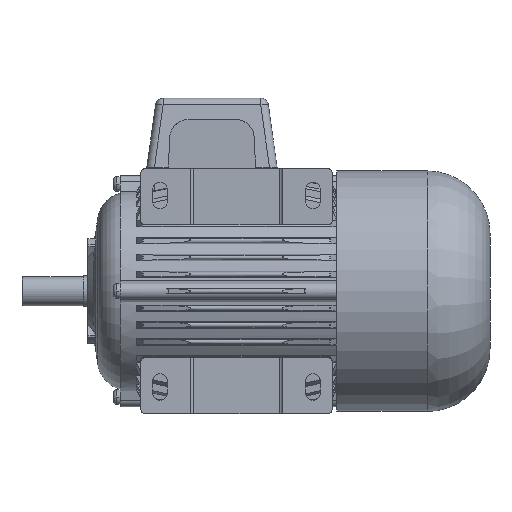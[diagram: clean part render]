
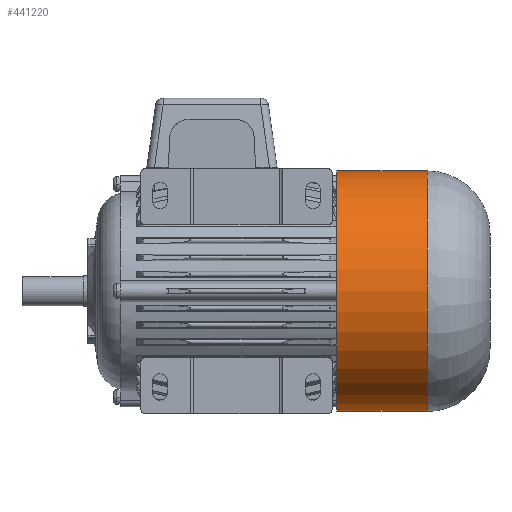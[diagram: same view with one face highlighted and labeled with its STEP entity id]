
A CAD part, front view. The second image highlights one B-rep face of the part: STEP entity #441220.
In plain terms, the highlighted cylindrical face has radius 78.5 mm (diameter 157 mm), a partial arc.
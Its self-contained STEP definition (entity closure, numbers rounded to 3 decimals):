
#440530=CARTESIAN_POINT('',(1007.742,425.689,
51.498));
#440540=DIRECTION('',(-1.,0.,0.));
#440550=DIRECTION('',(0.,0.,-1.));
#440560=AXIS2_PLACEMENT_3D('',#440530,#440540,#440550);
#440570=CIRCLE('',#440560,78.5);
#440580=CARTESIAN_POINT('',(1007.742,425.689,
-27.002));
#440590=VERTEX_POINT('',#440580);
#440600=CARTESIAN_POINT('',(1007.742,425.689,
129.998));
#440610=VERTEX_POINT('',#440600);
#440640=EDGE_CURVE('',#440610,#440590,#440570,.T.);
#440910=CARTESIAN_POINT('',(1091.246,425.689,
51.498));
#440920=DIRECTION('',(-1.,0.,0.));
#440930=DIRECTION('',(0.,0.,-1.));
#440940=AXIS2_PLACEMENT_3D('',#440910,#440920,#440930);
#440950=CYLINDRICAL_SURFACE('',#440940,78.5);
#440960=CARTESIAN_POINT('',(1091.246,425.689,
129.998));
#440970=DIRECTION('',(-1.,0.,0.));
#440980=VECTOR('',#440970,1.);
#440990=LINE('',#440960,#440980);
#441000=CARTESIAN_POINT('',(1066.742,425.689,
129.998));
#441010=VERTEX_POINT('',#441000);
#441020=EDGE_CURVE('',#441010,#440610,#440990,.T.);
#441030=ORIENTED_EDGE('',*,*,#441020,.F.);
#441040=ORIENTED_EDGE('',*,*,#440640,.F.);
#441050=CARTESIAN_POINT('',(1091.246,425.689,
-27.002));
#441060=DIRECTION('',(-1.,0.,0.));
#441070=VECTOR('',#441060,1.);
#441080=LINE('',#441050,#441070);
#441090=CARTESIAN_POINT('',(1066.742,425.689,
-27.002));
#441100=VERTEX_POINT('',#441090);
#441110=EDGE_CURVE('',#441100,#440590,#441080,.T.);
#441120=ORIENTED_EDGE('',*,*,#441110,.T.);
#441130=CARTESIAN_POINT('',(1066.742,425.689,
51.498));
#441140=DIRECTION('',(-1.,0.,0.));
#441150=DIRECTION('',(0.,0.,-1.));
#441160=AXIS2_PLACEMENT_3D('',#441130,#441140,#441150);
#441170=CIRCLE('',#441160,78.5);
#441180=EDGE_CURVE('',#441010,#441100,#441170,.T.);
#441190=ORIENTED_EDGE('',*,*,#441180,.T.);
#441200=EDGE_LOOP('',(#441190,#441120,#441040,#441030));
#441210=FACE_OUTER_BOUND('',#441200,.T.);
#441220=ADVANCED_FACE('',(#441210),#440950,.T.);
